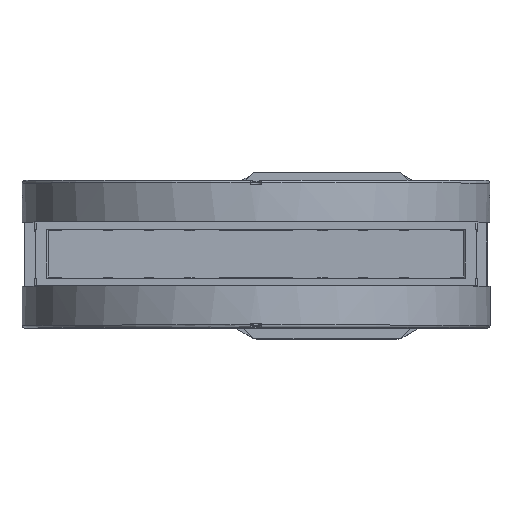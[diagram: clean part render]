
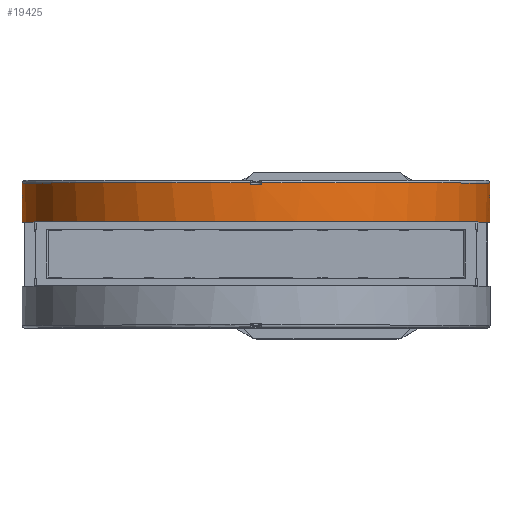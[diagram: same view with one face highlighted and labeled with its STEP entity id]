
A CAD part, top view. The second image highlights one B-rep face of the part: STEP entity #19425.
In plain terms, the highlighted cylindrical face has radius 126.6 mm (diameter 253.2 mm), a full revolution.
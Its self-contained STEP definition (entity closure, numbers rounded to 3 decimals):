
#5742=ELLIPSE('',#48313,223.466,126.6);
#5743=ELLIPSE('',#48314,223.466,126.6);
#5744=ELLIPSE('',#48321,223.466,126.6);
#5745=ELLIPSE('',#48322,223.466,126.6);
#13740=LINE('',#65117,#16910);
#13741=LINE('',#65122,#16911);
#13742=LINE('',#65126,#16912);
#13743=LINE('',#65130,#16913);
#16910=VECTOR('',#53805,1.);
#16911=VECTOR('',#53808,1.);
#16912=VECTOR('',#53811,1.);
#16913=VECTOR('',#53814,1.);
#19425=ADVANCED_FACE('BCT_REF_61925',(#21785,#21786,#21787,#21788),#21195,
 .T.);
#21195=CYLINDRICAL_SURFACE('',#48324,126.6);
#21785=FACE_BOUND('',#23649,.T.);
#21786=FACE_BOUND('',#23650,.T.);
#21787=FACE_BOUND('',#23651,.T.);
#21788=FACE_BOUND('',#23652,.T.);
#23649=EDGE_LOOP('',(#29384,#29385,#29386));
#23650=EDGE_LOOP('',(#29387,#29388,#29389,#29390,#29391,#29392,#29393,#29394));
#23651=EDGE_LOOP('',(#29395));
#23652=EDGE_LOOP('',(#29396,#29397,#29398));
#29384=ORIENTED_EDGE('',*,*,#42630,.T.);
#29385=ORIENTED_EDGE('',*,*,#42631,.T.);
#29386=ORIENTED_EDGE('',*,*,#42632,.T.);
#29387=ORIENTED_EDGE('',*,*,#42633,.T.);
#29388=ORIENTED_EDGE('',*,*,#42634,.T.);
#29389=ORIENTED_EDGE('',*,*,#42635,.F.);
#29390=ORIENTED_EDGE('',*,*,#42636,.F.);
#29391=ORIENTED_EDGE('',*,*,#42637,.T.);
#29392=ORIENTED_EDGE('',*,*,#42638,.T.);
#29393=ORIENTED_EDGE('',*,*,#42639,.F.);
#29394=ORIENTED_EDGE('',*,*,#42640,.T.);
#29395=ORIENTED_EDGE('',*,*,#42641,.T.);
#29396=ORIENTED_EDGE('',*,*,#42642,.F.);
#29397=ORIENTED_EDGE('',*,*,#42643,.F.);
#29398=ORIENTED_EDGE('',*,*,#42644,.F.);
#38211=VERTEX_POINT('',#65112);
#38212=VERTEX_POINT('',#65113);
#38213=VERTEX_POINT('',#65115);
#38214=VERTEX_POINT('',#65118);
#38215=VERTEX_POINT('',#65119);
#38216=VERTEX_POINT('',#65121);
#38217=VERTEX_POINT('',#65123);
#38218=VERTEX_POINT('',#65125);
#38219=VERTEX_POINT('',#65127);
#38220=VERTEX_POINT('',#65129);
#38221=VERTEX_POINT('',#65131);
#38222=VERTEX_POINT('',#65134);
#38223=VERTEX_POINT('',#65136);
#38224=VERTEX_POINT('',#65137);
#38225=VERTEX_POINT('',#65139);
#42630=EDGE_CURVE('',#38211,#38212,#5742,.T.);
#42631=EDGE_CURVE('',#38212,#38213,#5743,.T.);
#42632=EDGE_CURVE('',#38213,#38211,#46554,.T.);
#42633=EDGE_CURVE('',#38214,#38215,#13740,.T.);
#42634=EDGE_CURVE('',#38215,#38216,#46555,.T.);
#42635=EDGE_CURVE('',#38217,#38216,#13741,.T.);
#42636=EDGE_CURVE('',#38218,#38217,#46556,.T.);
#42637=EDGE_CURVE('',#38218,#38219,#13742,.T.);
#42638=EDGE_CURVE('',#38219,#38220,#46557,.T.);
#42639=EDGE_CURVE('',#38221,#38220,#13743,.T.);
#42640=EDGE_CURVE('',#38221,#38214,#46558,.T.);
#42641=EDGE_CURVE('',#38222,#38222,#46559,.T.);
#42642=EDGE_CURVE('',#38223,#38224,#5744,.T.);
#42643=EDGE_CURVE('',#38225,#38223,#5745,.T.);
#42644=EDGE_CURVE('',#38224,#38225,#46560,.T.);
#46554=CIRCLE('',#48315,126.6);
#46555=CIRCLE('',#48316,126.6);
#46556=CIRCLE('',#48317,126.6);
#46557=CIRCLE('',#48318,126.6);
#46558=CIRCLE('',#48319,126.6);
#46559=CIRCLE('',#48320,126.6);
#46560=CIRCLE('',#48323,126.6);
#48313=AXIS2_PLACEMENT_3D('',#65111,#53799,#53800);
#48314=AXIS2_PLACEMENT_3D('',#65114,#53801,#53802);
#48315=AXIS2_PLACEMENT_3D('',#65116,#53803,#53804);
#48316=AXIS2_PLACEMENT_3D('',#65120,#53806,#53807);
#48317=AXIS2_PLACEMENT_3D('',#65124,#53809,#53810);
#48318=AXIS2_PLACEMENT_3D('',#65128,#53812,#53813);
#48319=AXIS2_PLACEMENT_3D('',#65132,#53815,#53816);
#48320=AXIS2_PLACEMENT_3D('',#65133,#53817,#53818);
#48321=AXIS2_PLACEMENT_3D('',#65135,#53819,#53820);
#48322=AXIS2_PLACEMENT_3D('',#65138,#53821,#53822);
#48323=AXIS2_PLACEMENT_3D('',#65140,#53823,#53824);
#48324=AXIS2_PLACEMENT_3D('',#65141,#53825,#53826);
#53799=DIRECTION('',(0.,-0.567,0.824));
#53800=DIRECTION('',(0.,0.824,0.567));
#53801=DIRECTION('',(0.,-0.567,-0.824));
#53802=DIRECTION('',(0.,0.824,-0.567));
#53803=DIRECTION('',(0.,1.,0.));
#53804=DIRECTION('',(0.,0.,1.));
#53805=DIRECTION('',(0.,1.,0.));
#53806=DIRECTION('',(0.,-1.,0.));
#53807=DIRECTION('',(0.,0.,-1.));
#53808=DIRECTION('',(0.,1.,0.));
#53809=DIRECTION('',(0.,1.,0.));
#53810=DIRECTION('',(0.,0.,1.));
#53811=DIRECTION('',(0.,1.,0.));
#53812=DIRECTION('',(0.,-1.,0.));
#53813=DIRECTION('',(0.,0.,-1.));
#53814=DIRECTION('',(0.,1.,0.));
#53815=DIRECTION('',(0.,-1.,0.));
#53816=DIRECTION('',(0.,0.,1.));
#53817=DIRECTION('',(0.,1.,0.));
#53818=DIRECTION('',(0.,0.,1.));
#53819=DIRECTION('',(0.,0.567,0.824));
#53820=DIRECTION('',(0.,0.824,-0.567));
#53821=DIRECTION('',(0.,0.567,-0.824));
#53822=DIRECTION('',(0.,0.824,0.567));
#53823=DIRECTION('',(0.,-1.,0.));
#53824=DIRECTION('',(0.,0.,-1.));
#53825=DIRECTION('',(0.,1.,0.));
#53826=DIRECTION('',(0.,0.,1.));
#65111=CARTESIAN_POINT('',(0.,27.95,412.));
#65112=CARTESIAN_POINT('',(-126.57,31.95,414.75));
#65113=CARTESIAN_POINT('',(-126.6,27.95,412.));
#65114=CARTESIAN_POINT('',(0.,27.95,412.));
#65115=CARTESIAN_POINT('',(-126.57,31.95,409.25));
#65116=CARTESIAN_POINT('',(0.,31.95,412.));
#65117=CARTESIAN_POINT('',(-3.,37.45,538.564));
#65118=CARTESIAN_POINT('',(-3.,37.45,538.564));
#65119=CARTESIAN_POINT('',(-3.,38.45,538.564));
#65120=CARTESIAN_POINT('',(0.,38.45,412.));
#65121=CARTESIAN_POINT('',(-3.,38.45,285.436));
#65122=CARTESIAN_POINT('',(-3.,37.45,285.436));
#65123=CARTESIAN_POINT('',(-3.,37.45,285.436));
#65124=CARTESIAN_POINT('',(0.,37.45,412.));
#65125=CARTESIAN_POINT('',(3.,37.45,285.436));
#65126=CARTESIAN_POINT('',(3.,37.45,285.436));
#65127=CARTESIAN_POINT('',(3.,38.45,285.436));
#65128=CARTESIAN_POINT('',(0.,38.45,412.));
#65129=CARTESIAN_POINT('',(3.,38.45,538.564));
#65130=CARTESIAN_POINT('',(3.,37.45,538.564));
#65131=CARTESIAN_POINT('',(3.,37.45,538.564));
#65132=CARTESIAN_POINT('',(0.,37.45,412.));
#65133=CARTESIAN_POINT('',(0.,17.25,412.));
#65134=CARTESIAN_POINT('',(0.,17.25,538.6));
#65135=CARTESIAN_POINT('',(0.,27.95,412.));
#65136=CARTESIAN_POINT('',(126.6,27.95,412.));
#65137=CARTESIAN_POINT('',(126.57,31.95,409.25));
#65138=CARTESIAN_POINT('',(0.,27.95,412.));
#65139=CARTESIAN_POINT('',(126.57,31.95,414.75));
#65140=CARTESIAN_POINT('',(0.,31.95,412.));
#65141=CARTESIAN_POINT('',(0.,38.65,412.));
